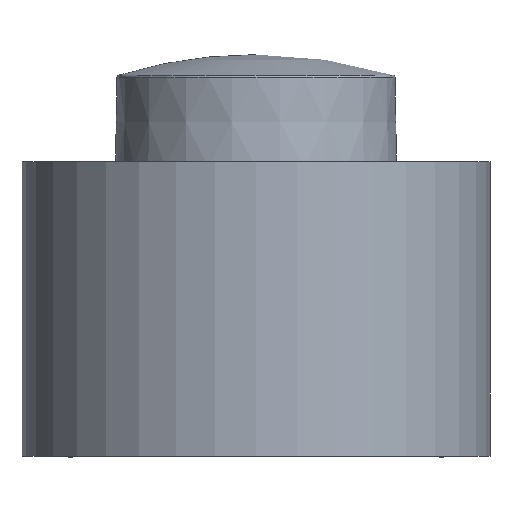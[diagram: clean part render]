
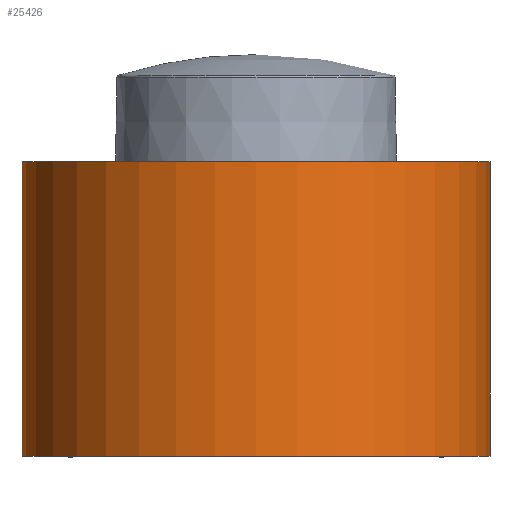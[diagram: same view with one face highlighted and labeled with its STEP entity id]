
A CAD part, front view. The second image highlights one B-rep face of the part: STEP entity #25426.
In plain terms, the highlighted cylindrical face has radius 8.75 mm (diameter 17.5 mm), a full revolution.
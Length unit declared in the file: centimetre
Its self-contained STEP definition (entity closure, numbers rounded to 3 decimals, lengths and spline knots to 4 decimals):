
#1177=FACE_BOUND($,#2638,.T.);
#1300=FACE_OUTER_BOUND($,#2637,.T.);
#2637=EDGE_LOOP($,(#16453));
#2638=EDGE_LOOP($,(#16454));
#4708=CIRCLE($,#26808,0.875);
#4710=CIRCLE($,#26813,0.875);
#10244=VERTEX_POINT($,#35442);
#10246=VERTEX_POINT($,#35449);
#12704=EDGE_CURVE($,#10244,#10244,#4708,.T.);
#12706=EDGE_CURVE($,#10246,#10246,#4710,.T.);
#16453=ORIENTED_EDGE($,*,*,#12704,.T.);
#16454=ORIENTED_EDGE($,*,*,#12706,.F.);
#23848=CYLINDRICAL_SURFACE($,#26812,0.875);
#25426=ADVANCED_FACE($,(#1300,#1177),#23848,.T.);
#26808=AXIS2_PLACEMENT_3D($,#35443,#28878,#28879);
#26812=AXIS2_PLACEMENT_3D($,#35448,#28886,#28887);
#26813=AXIS2_PLACEMENT_3D($,#35450,#28888,#28889);
#28878=DIRECTION('center_axis',(0.,0.,-1.));
#28879=DIRECTION('ref_axis',(-1.,0.,0.));
#28886=DIRECTION('center_axis',(0.,0.,1.));
#28887=DIRECTION('ref_axis',(-1.,0.,0.));
#28888=DIRECTION('center_axis',(0.,0.,-1.));
#28889=DIRECTION('ref_axis',(-1.,0.,0.));
#35442=CARTESIAN_POINT('',(0.875,0.,1.1));
#35443=CARTESIAN_POINT('Origin',(0.,0.,
1.1));
#35448=CARTESIAN_POINT('Origin',(0.,0.,
0.));
#35449=CARTESIAN_POINT('',(0.875,0.,0.));
#35450=CARTESIAN_POINT('Origin',(0.,0.,
0.));
